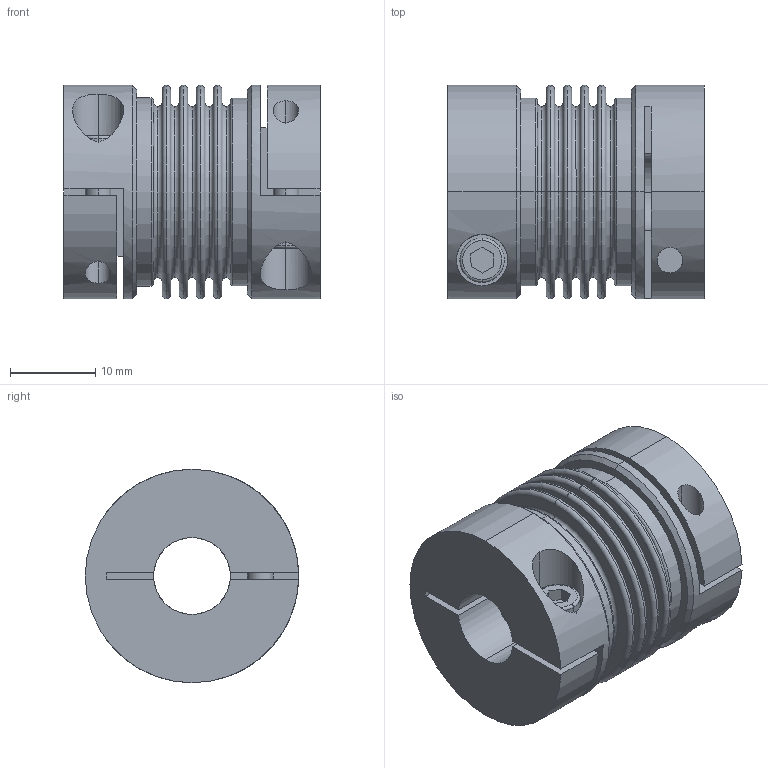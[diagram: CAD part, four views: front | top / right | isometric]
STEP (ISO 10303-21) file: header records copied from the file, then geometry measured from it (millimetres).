
FILE_DESCRIPTION(('no description'),'unknown implementation level');
FILE_NAME('BKL_2_9_9_1.stp',' ',('R+W Antriebselemente GmbH'),('CADClick - KiM GmbH - www.kimweb.de'),'unknown preprocess','ACIS','unknown authorization');
FILE_SCHEMA(('CONFIG_CONTROL_DESIGN'));
Length unit declared in the file: millimetre
Products named in the file (1): 1
Bounding box: 30 x 25 x 25 mm (x, y, z)
Volume: 10164.2 mm3; surface area: 7045.6 mm2
Topology: 1 solids, 1 shells, 134 faces, 306 edges, 194 vertices
Faces by surface type: plane 50, torus 44, cylinder 36, cone 4
Entity records: 4100 total; most frequent: CARTESIAN_POINT 861, DIRECTION 752, ORIENTED_EDGE 612, AXIS2_PLACEMENT_3D 319, EDGE_CURVE 306, VERTEX_POINT 194, CIRCLE 184, EDGE_LOOP 160
